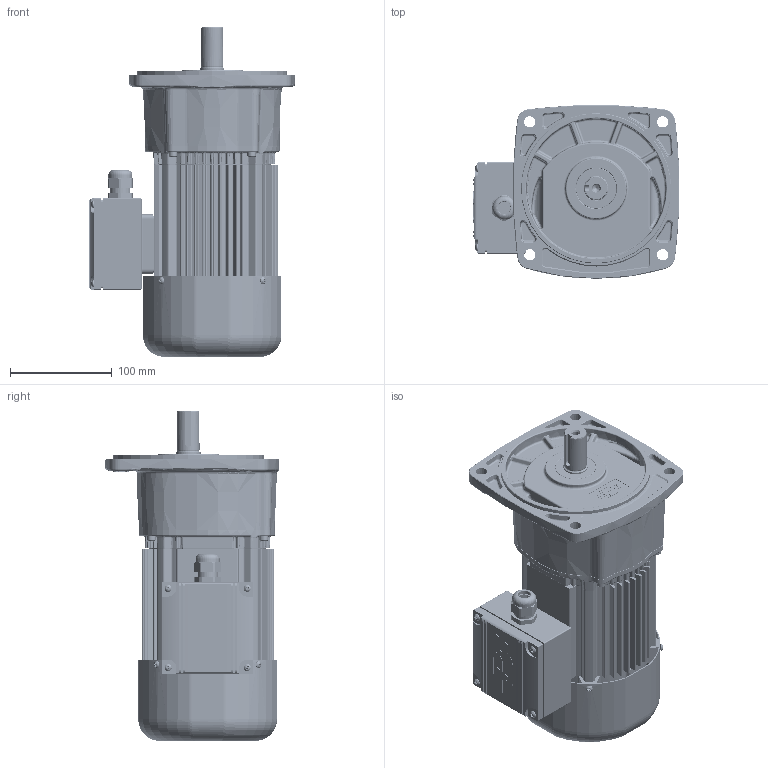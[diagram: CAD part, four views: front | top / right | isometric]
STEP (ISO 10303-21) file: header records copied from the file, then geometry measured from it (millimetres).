
FILE_DESCRIPTION(/* description */ (''),/* implementation_level */ '2;1');
FILE_NAME(/* name */ 'Z:\동력 3D 파일\PAF22_0.2kW_Brake_3D.stp',/* time_stamp */ '2021-11-08T15:02:33+09:00',/* author */ ('jaebok'),/* organization */ (''),/* preprocessor_version */ 'ST-DEVELOPER v18.1',/* originating_system */ 'Autodesk Inventor 2022',/* authorisation */ '');
FILE_SCHEMA (('AUTOMOTIVE_DESIGN { 1 0 10303 214 3 1 1 }'));
Products named in the file (1): 부품4
Bounding box: 203.28 x 170.78 x 324.5 mm (x, y, z)
Volume: 1531011.7 mm3; surface area: 559843.8 mm2
Topology: 3 solids, 34 shells, 3968 faces, 9922 edges, 5936 vertices
Faces by surface type: plane 1228, cylinder 1035, bspline 984, torus 364, cone 279, sphere 78
Full cylindrical faces by diameter (mm): 1.5 x2, 2 x5, 3 x4, 3.242 x4, 3.25 x1, 3.3 x8, 3.6 x4, 3.8 x3, 4 x20, 4.2 x13, 5 x30, 5.5 x4, 5.8 x2, 5.9 x3, 6 x13, 6.4 x1, 6.5 x6, 6.647 x1, 7 x12, 7.9 x6, 8 x4, 8.5 x5, 8.7 x1, 10 x1, 12.5 x1, 13 x1, 14 x1, 15 x1, 16 x1, 19 x1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
Entity records: 160363 total; most frequent: CARTESIAN_POINT 68182, ORIENTED_EDGE 19356, DIRECTION 17200, EDGE_CURVE 9678, AXIS2_PLACEMENT_3D 6956, VERTEX_POINT 5929, EDGE_LOOP 4259, FACE_OUTER_BOUND 3968
